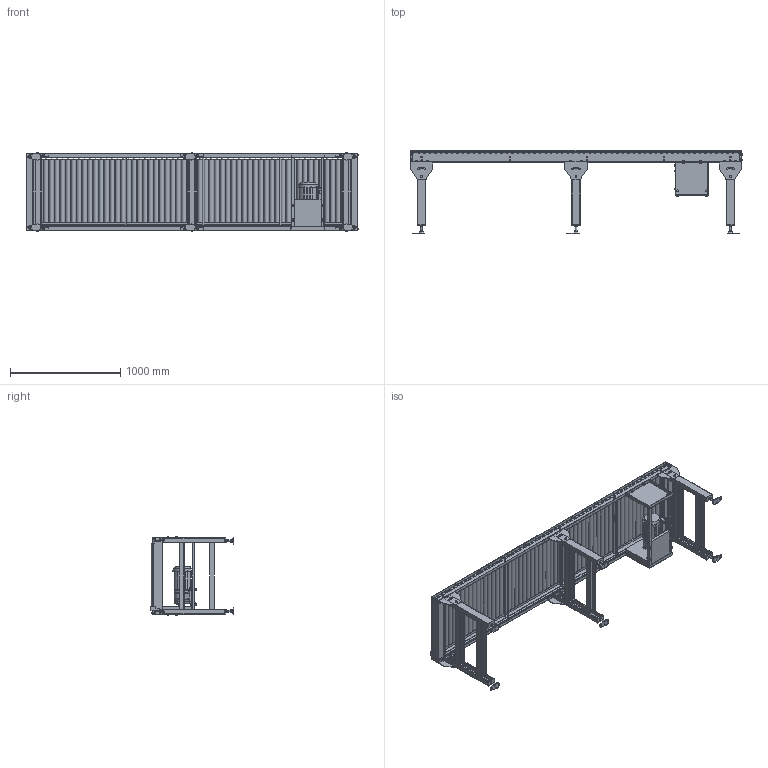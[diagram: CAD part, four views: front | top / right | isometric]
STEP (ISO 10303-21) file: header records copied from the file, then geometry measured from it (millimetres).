
FILE_DESCRIPTION (( 'STEP AP214' ), '1' );
FILE_NAME ('MCC8-42-630-50-300-R.STEP', '2023-02-22T06:22:01', ( '' ), ( '' ), 'SwSTEP 2.0', 'SolidWorks 2017', '' );
FILE_SCHEMA (( 'AUTOMOTIVE_DESIGN' ));
Length unit declared in the file: millimetre
Products named in the file (1): MCC8-42-630-50-300-R
Bounding box: 3010.4 x 757.75 x 714.6 mm (x, y, z)
Volume: 81502133.3 mm3; surface area: 12067965.1 mm2
Topology: 85 solids, 91 shells, 4208 faces, 9724 edges, 6320 vertices
Faces by surface type: plane 2769, cylinder 1349, cone 67, torus 14, bspline 9
Entity records: 122275 total; most frequent: CARTESIAN_POINT 22177, DIRECTION 21231, ORIENTED_EDGE 19444, EDGE_CURVE 9722, AXIS2_PLACEMENT_3D 7459, VERTEX_POINT 6320, VECTOR 6313, LINE 6313
